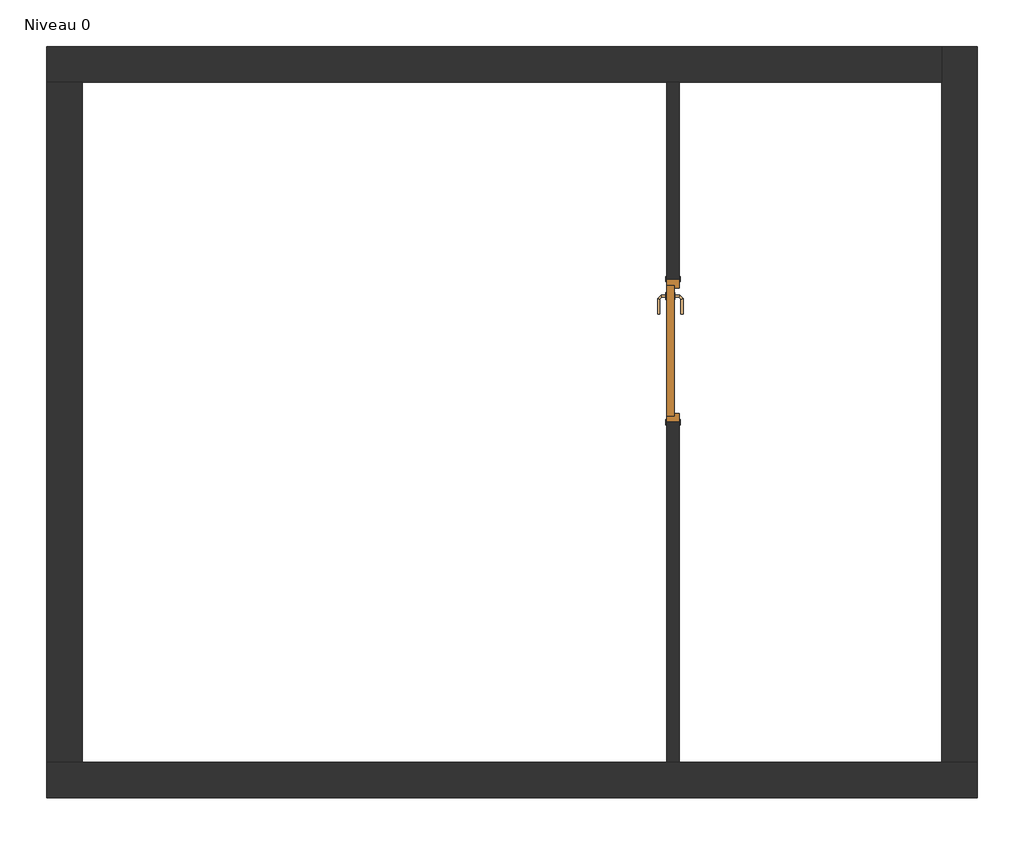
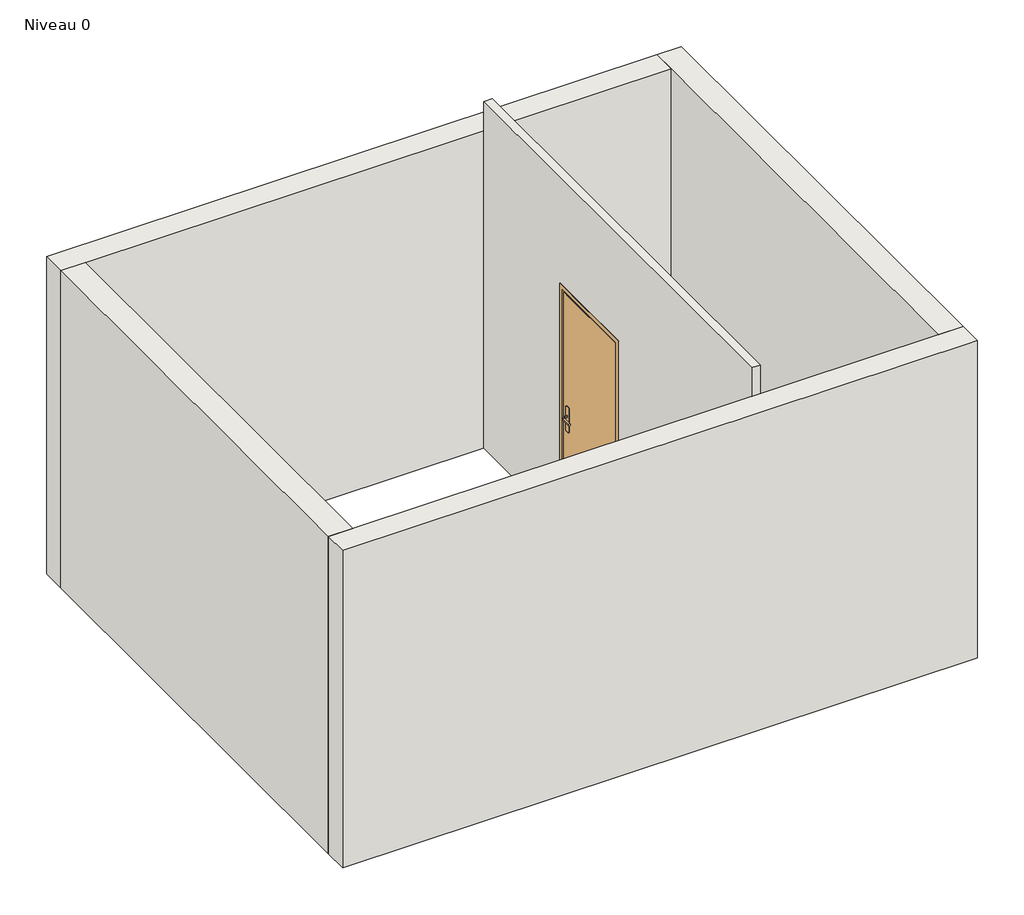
# One storey: 5 walls, 1 door.
"""IFC4 building model written with IfcOpenShell, lengths in millimetres."""

import ifcopenshell
import ifcopenshell.guid

model = None  # the IFC model being written
_history = None  # IfcOwnerHistory: only IFC2X3 demands one
_inside = {}  # id of a spatial element -> (the spatial element, [elements in it])
_under = {}  # id of a project, library or spatial element -> (it, [spatial elements below it])
_declared = {}  # id of a project -> (the project, [libraries it declares])
_typed = {}  # id of a type object -> (the type object, [elements of that type])
_made_of = {}  # id of a material, layer set ... -> (it, [elements and type objects made of it])


def new_model(schema):
    """Start an empty IFC model of exactly this schema.

    Asked for "IFC4X3", IfcOpenShell would pick the latest addendum, in which some entities
    have other attributes; the version numbers below select the first issue.
    IFC2X3 requires an IfcOwnerHistory on every rooted entity: one is made here for all.
    """
    global model, _history
    if schema == "IFC4X3":
        model = ifcopenshell.file(schema_version=(4, 3, 0, 0))
    else:
        model = ifcopenshell.file(schema=schema)
    _inside.clear()
    _under.clear()
    _declared.clear()
    _typed.clear()
    _made_of.clear()
    _history = None
    if model.schema == "IFC2X3":
        org = make("IfcOrganization", Name="unknown")
        user = make(
            "IfcPersonAndOrganization",
            ThePerson=make("IfcPerson", FamilyName="unknown"),
            TheOrganization=org,
        )
        app = make(
            "IfcApplication",
            ApplicationDeveloper=org,
            Version="unknown",
            ApplicationFullName="unknown",
            ApplicationIdentifier="unknown",
        )
        _history = make(
            "IfcOwnerHistory",
            OwningUser=user,
            OwningApplication=app,
            ChangeAction="ADDED",
            CreationDate=0,
        )
    return model


def make(cls, **values):
    """One entity of the class cls with the attributes given. An attribute that is None is left unset."""
    return model.create_entity(
        cls, **{name: value for name, value in values.items() if value is not None}
    )


def rooted(cls, **values):
    """An entity with a GlobalId (a new one), such as an element, a storey or a relation."""
    return make(cls, GlobalId=ifcopenshell.guid.new(), OwnerHistory=_history, **values)


def si_unit(unit_type, name, prefix=None):
    """IfcSIUnit, for example si_unit("LENGTHUNIT", "METRE", prefix="MILLI")."""
    return make("IfcSIUnit", UnitType=unit_type, Prefix=prefix, Name=name)


def assignment(units):
    """IfcUnitAssignment: the units of a project."""
    return None if units is None else make("IfcUnitAssignment", Units=units)


def point(xyz):
    """IfcCartesianPoint."""
    return None if xyz is None else make("IfcCartesianPoint", Coordinates=xyz)


def direction(xyz):
    """IfcDirection."""
    return None if xyz is None else make("IfcDirection", DirectionRatios=xyz)


def frame(location, z_axis=None, x_axis=None):
    """IfcAxis2Placement3D, a coordinate frame: its origin and axes. An axis left out is left unset."""
    return make(
        "IfcAxis2Placement3D",
        Location=point(location),
        Axis=direction(z_axis),
        RefDirection=direction(x_axis),
    )


def frame_2d(location, x_axis=None):
    """IfcAxis2Placement2D, a coordinate frame in the plane: its origin and x axis."""
    return make(
        "IfcAxis2Placement2D", Location=point(location), RefDirection=direction(x_axis)
    )


def origin():
    """The frame at (0, 0, 0) with its axes left unset."""
    return frame((0.0, 0.0, 0.0))


def origin_with_axes():
    """The frame at (0, 0, 0) with the z axis (0, 0, 1) and the x axis (1, 0, 0) written out."""
    return frame((0.0, 0.0, 0.0), z_axis=(0.0, 0.0, 1.0), x_axis=(1.0, 0.0, 0.0))


def place(relative_to, where):
    """IfcLocalPlacement: puts the frame where relative to a parent placement (None: the world)."""
    return make(
        "IfcLocalPlacement", PlacementRelTo=relative_to, RelativePlacement=where
    )


def context(
    kind, dimensions, precision=None, world=None, true_north=None, identifier=None
):
    """IfcGeometricRepresentationContext, for example the 3D "Model" context."""
    return make(
        "IfcGeometricRepresentationContext",
        ContextIdentifier=identifier,
        ContextType=kind,
        CoordinateSpaceDimension=dimensions,
        Precision=precision,
        WorldCoordinateSystem=world,
        TrueNorth=true_north,
    )


def project(units=None, contexts=None):
    """IfcProject with its units and contexts."""
    return rooted(
        "IfcProject",
        Name="project",
        RepresentationContexts=contexts,
        UnitsInContext=assignment(units),
    )


def spatial(cls, under=None, at=None, **own):
    """A site, building, storey or space (cls), placed at a placement, below another one or the project."""
    s = rooted(cls, ObjectPlacement=at, **own)
    if under is not None:
        _under.setdefault(under.id(), (under, []))[1].append(s)
    return s


def polyline(points):
    """IfcPolyline through the points."""
    return make("IfcPolyline", Points=[point(p) for p in points])


def circle_curve(where, radius):
    """IfcCircle in the frame where."""
    return make("IfcCircle", Position=where, Radius=radius)


def ellipse_curve(where, semi_axis1, semi_axis2):
    """IfcEllipse in the frame where."""
    return make(
        "IfcEllipse", Position=where, SemiAxis1=semi_axis1, SemiAxis2=semi_axis2
    )


def trimmed(basis, trim1, trim2, sense, master):
    """IfcTrimmedCurve: the piece of a basis curve between two trims."""
    return make(
        "IfcTrimmedCurve",
        BasisCurve=basis,
        Trim1=trim1,
        Trim2=trim2,
        SenseAgreement=sense,
        MasterRepresentation=master,
    )


def segment(curve, same_sense, transition):
    """IfcCompositeCurveSegment."""
    return make(
        "IfcCompositeCurveSegment",
        Transition=transition,
        SameSense=same_sense,
        ParentCurve=curve,
    )


def composite_curve(segments, self_intersect=None):
    """IfcCompositeCurve: segments joined end to end."""
    return make("IfcCompositeCurve", Segments=segments, SelfIntersect=self_intersect)


def outline(outer, holes=None, kind="AREA"):
    """IfcArbitraryClosedProfileDef: a profile drawn as a closed curve; with holes, ...WithVoids."""
    if holes is None:
        return make("IfcArbitraryClosedProfileDef", ProfileType=kind, OuterCurve=outer)
    return make(
        "IfcArbitraryProfileDefWithVoids",
        ProfileType=kind,
        OuterCurve=outer,
        InnerCurves=holes,
    )


def extrude(swept, where, along, depth):
    """IfcExtrudedAreaSolid: the profile swept, set in the frame where, extruded along a direction by depth."""
    return make(
        "IfcExtrudedAreaSolid",
        SweptArea=swept,
        Position=where,
        ExtrudedDirection=direction(along),
        Depth=depth,
    )


def faces_of(points, faces, orient=None, outer=None):
    """IfcFace entities. A face is a list of loops; a loop is a list of indices into points, from 0.

    orient and outer hold one flag for each loop. By default every Orientation is true, the
    first loop of a face is its IfcFaceOuterBound and the others are IfcFaceBound.
    """
    made = []
    for i, loops in enumerate(faces):
        bounds = []
        for j, loop in enumerate(loops):
            is_outer = j == 0 if outer is None else outer[i][j]
            bounds.append(
                make(
                    "IfcFaceOuterBound" if is_outer else "IfcFaceBound",
                    Bound=make("IfcPolyLoop", Polygon=[points[k] for k in loop]),
                    Orientation=True if orient is None else orient[i][j],
                )
            )
        made.append(make("IfcFace", Bounds=bounds))
    return made


def faceted_brep(points, faces, orient=None, outer=None, voids=None):
    """IfcFacetedBrep: a solid bounded by flat faces; with voids (closed shells), ...WithVoids."""
    shared = [point(p) for p in points]
    hull = make("IfcClosedShell", CfsFaces=faces_of(shared, faces, orient, outer))
    if voids is None:
        return make("IfcFacetedBrep", Outer=hull)
    return make(
        "IfcFacetedBrepWithVoids",
        Outer=hull,
        Voids=[
            make(cls, CfsFaces=faces_of(shared, fs, o, b)) for cls, fs, o, b in voids
        ],
    )


def shape(context_of_items, identifier, shape_type, items):
    """IfcShapeRepresentation: the items that make up one representation, for example the "Body"."""
    return make(
        "IfcShapeRepresentation",
        ContextOfItems=context_of_items,
        RepresentationIdentifier=identifier,
        RepresentationType=shape_type,
        Items=items,
    )


def source(mapping_origin, context_of_items, identifier, shape_type, items):
    """IfcRepresentationMap: a shape defined once, which mapped items show again and again."""
    return make(
        "IfcRepresentationMap",
        MappingOrigin=mapping_origin,
        MappedRepresentation=shape(context_of_items, identifier, shape_type, items),
    )


def transform(
    local_origin,
    x_axis=None,
    y_axis=None,
    z_axis=None,
    scale=None,
    scale2=None,
    scale3=None,
    uniform=True,
):
    """IfcCartesianTransformationOperator3D, or its non-uniform kind. x_axis, y_axis, z_axis: its Axis1, 2, 3."""
    if uniform:
        return make(
            "IfcCartesianTransformationOperator3D",
            Axis1=direction(x_axis),
            Axis2=direction(y_axis),
            LocalOrigin=point(local_origin),
            Scale=scale,
            Axis3=direction(z_axis),
        )
    return make(
        "IfcCartesianTransformationOperator3DnonUniform",
        Axis1=direction(x_axis),
        Axis2=direction(y_axis),
        LocalOrigin=point(local_origin),
        Scale=scale,
        Axis3=direction(z_axis),
        Scale2=scale2,
        Scale3=scale3,
    )


def mapped(mapping_source, mapping_target):
    """IfcMappedItem: shows the shape of a source again, moved by a transform."""
    return make(
        "IfcMappedItem", MappingSource=mapping_source, MappingTarget=mapping_target
    )


def made_of(thing, what):
    """Note that an element or type object is made of a material, layer set ...; save() writes the relation."""
    if what is not None:
        _made_of.setdefault(what.id(), (what, []))[1].append(thing)
    return thing


def element(
    cls,
    number,
    at=None,
    inside=None,
    cuts=None,
    type_object=None,
    material=None,
    context=None,
    identifier="Body",
    shape_type=None,
    held_by="IfcProductDefinitionShape",
    body=None,
    shapes=None,
    **own,
):
    """One element of the class cls, such as IfcWall. Its Tag is "e" and its number.

    at: its placement. inside: the storey or other place that contains it. cuts: it is an
    opening in that element (IfcRelVoidsElement). A single representation is given by context,
    identifier, shape_type and body (its items); several are given by shapes. held_by: the class
    of the entity that holds the representations. save() writes the other relations.
    """
    e = rooted(cls, Tag="e%d" % number, ObjectPlacement=at, **own)
    if body is not None:
        shapes = [shape(context, identifier, shape_type, body)]
    if shapes is not None:
        e.Representation = make(held_by, Representations=shapes)
    if inside is not None:
        _inside.setdefault(inside.id(), (inside, []))[1].append(e)
    if cuts is not None:
        rooted(
            "IfcRelVoidsElement", RelatingBuildingElement=cuts, RelatedOpeningElement=e
        )
    if type_object is not None:
        _typed.setdefault(type_object.id(), (type_object, []))[1].append(e)
    return made_of(e, material)


def aggregate(whole, parts):
    """IfcRelAggregates: a whole, such as a stair, and the parts it consists of."""
    return rooted("IfcRelAggregates", RelatingObject=whole, RelatedObjects=parts)


def save(model, path):
    """Write the relations noted so far, then the file.

    IfcRelAggregates (storeys below a building ...), IfcRelContainedInSpatialStructure (elements
    in a storey), IfcRelDefinesByType, IfcRelAssociatesMaterial and IfcRelDeclares: one each for
    every whole, place, type object, material and project.
    """
    for whole, parts in _under.values():
        aggregate(whole, parts)
    for where, things in _inside.values():
        rooted(
            "IfcRelContainedInSpatialStructure",
            RelatedElements=things,
            RelatingStructure=where,
        )
    for kind, things in _typed.values():
        rooted("IfcRelDefinesByType", RelatedObjects=things, RelatingType=kind)
    for what, things in _made_of.values():
        rooted("IfcRelAssociatesMaterial", RelatedObjects=things, RelatingMaterial=what)
    for by, libraries in _declared.values():
        rooted("IfcRelDeclares", RelatingContext=by, RelatedDefinitions=libraries)
    model.write(path)


def plane_surface(at):
    """IfcPlane: the flat surface through the origin of the frame at, square to its z axis."""
    return make("IfcPlane", Position=at)


def cylinder_surface(at, radius):
    """IfcCylindricalSurface: all points at the distance radius from the z axis of the frame at."""
    return make("IfcCylindricalSurface", Position=at, Radius=radius)


def advanced_brep(points, edges, surfaces, faces):
    """IfcAdvancedBrep: a solid bounded by faces that lie on surfaces and meet in shared edges.

    An edge is (start, end): straight between two places in points (the first is 0);
    or (start, end, curve); or (start, end, curve, False) where it runs against its curve.
    A face is (place in surfaces, loops), or (place, loops, False) where it looks against
    its surface's normal. A loop lists edges by number (the first is 1), with a minus sign
    where the edge is run from its end to its start. The first loop is the outer one.
    """
    corners = [point(p) for p in points]
    vertices = [make("IfcVertexPoint", VertexGeometry=c) for c in corners]
    made = []
    for start, end, *more in edges:
        made.append(
            make(
                "IfcEdgeCurve",
                EdgeStart=vertices[start],
                EdgeEnd=vertices[end],
                EdgeGeometry=more[0] if more else make("IfcPolyline", Points=[corners[start], corners[end]]),
                SameSense=more[1] if len(more) > 1 else True,
            )
        )
    hull = []
    for where, loops, *sense in faces:
        bounds = []
        for j, loop in enumerate(loops):
            ring = [make("IfcOrientedEdge", EdgeElement=made[abs(k) - 1], Orientation=k > 0) for k in loop]
            bounds.append(
                make(
                    "IfcFaceOuterBound" if j == 0 else "IfcFaceBound",
                    Bound=make("IfcEdgeLoop", EdgeList=ring),
                    Orientation=True,
                )
            )
        hull.append(make("IfcAdvancedFace", Bounds=bounds, FaceSurface=surfaces[where], SameSense=sense[0] if sense else True))
    return make("IfcAdvancedBrep", Outer=make("IfcClosedShell", CfsFaces=hull))


def int_simple_pp_0_73m_x_2_04m_0234ae46(model_context):
    return source(origin(), model_context, "Body", "SolidModel", [
        extrude(outline(composite_curve([segment(trimmed(circle_curve(frame_2d((904.6410162, -340.0)), 40.0), [point((870.0, -360.0))], [point((870.0, -320.0))], False, "CARTESIAN"), True, "CONTINUOUS"), segment(polyline([(870.0, -320.0), (1080.0, -320.0)]), True, "CONTINUOUS"), segment(trimmed(circle_curve(frame_2d((1045.3589838, -340.0)), 40.0), [point((1080.0, -320.0))], [point((1080.0, -360.0))], False, "CARTESIAN"), True, "CONTINUOUS"), segment(polyline([(1080.0, -360.0), (870.0, -360.0)]), True, "CONTINUOUS")], self_intersect=False)), frame((0.0, -40.0, 0.0), z_axis=(0.0, 1.0, 0.0), x_axis=(0.0, 0.0, 1.0)), (0.0, 0.0, 1.0), 5.0),
        extrude(outline(composite_curve([segment(trimmed(circle_curve(frame_2d((1045.3589838, -340.0)), 40.0), [point((1080.0, -320.0))], [point((1080.0, -360.0))], False, "CARTESIAN"), True, "CONTINUOUS"), segment(polyline([(1080.0, -360.0), (870.0, -360.0)]), True, "CONTINUOUS"), segment(trimmed(circle_curve(frame_2d((904.6410162, -340.0)), 40.0), [point((870.0, -360.0))], [point((870.0, -320.0))], False, "CARTESIAN"), True, "CONTINUOUS"), segment(polyline([(870.0, -320.0), (1080.0, -320.0)]), True, "CONTINUOUS")], self_intersect=False)), frame((0.0, 5.0, 0.0), z_axis=(0.0, 1.0, 0.0), x_axis=(0.0, 0.0, 1.0)), (0.0, 0.0, 1.0), 5.0),
        advanced_brep(
        [(-346.0, -40.0, 1007.0), (-334.0, -40.0, 1007.0), (-334.0, -40.0, 993.0), (-346.0, -40.0, 993.0), (-346.0, -67.6509507, 1007.0), (-334.0, -62.680388, 1007.0), (-334.0, -62.680388, 993.0), (-346.0, -67.6509507, 993.0), (-327.62279, -86.0281607, 1007.0), (-322.6522273, -74.0281607, 1007.0), (-322.6522273, -74.0281607, 993.0), (-327.62279, -86.0281607, 993.0), (-239.9813594, -86.0281607, 1007.0), (-239.9813594, -86.0281607, 993.0), (-239.9813594, -74.0281607, 993.0), (-239.9813594, -74.0281607, 1007.0)],
        [
            (0, 1, circle_curve(frame((-340.0, -40.0, 986.9542278), z_axis=(0.0, 1.0, 0.0), x_axis=(1.0, 0.0, 0.0)), 20.9244589)),
            (1, 2),
            (2, 3, circle_curve(frame((-340.0, -40.0, 1013.0457722), z_axis=(0.0, 1.0, 0.0), x_axis=(1.0, 0.0, 0.0)), 20.9244589)),
            (3, 0),
            (0, 4),
            (4, 5, ellipse_curve(frame((-340.0, -65.1656693, 986.9542278), z_axis=(-0.3826834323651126, 0.9238795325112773, 0.0), x_axis=(0.9238795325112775, 0.38268343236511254, 0.0)), 22.6484711, 20.9244589)),
            (5, 1),
            (5, 6),
            (6, 2),
            (6, 7, ellipse_curve(frame((-340.0, -65.1656693, 1013.0457722), z_axis=(-0.3826834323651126, 0.9238795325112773, 0.0), x_axis=(0.9238795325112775, 0.38268343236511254, 0.0)), 22.6484711, 20.9244589)),
            (7, 3),
            (7, 4),
            (4, 8),
            (8, 9, ellipse_curve(frame((-325.1375086, -80.0281607, 986.9542278), z_axis=(-0.9238795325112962, 0.38268343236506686, 0.0), x_axis=(0.3826834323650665, 0.9238795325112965, 0.0)), 22.6484711, 20.9244589)),
            (9, 5),
            (9, 10),
            (10, 6),
            (10, 11, ellipse_curve(frame((-325.1375086, -80.0281607, 1013.0457722), z_axis=(-0.9238795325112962, 0.38268343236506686, 0.0), x_axis=(0.3826834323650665, 0.9238795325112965, 0.0)), 22.6484711, 20.9244589)),
            (11, 7),
            (11, 8),
            (12, 13),
            (13, 14, circle_curve(frame((-239.9813594, -80.0281607, 1013.0457722), z_axis=(1.0, 0.0, 0.0), x_axis=(0.0, 1.0, 0.0)), 20.9244589)),
            (14, 15),
            (15, 12, circle_curve(frame((-239.9813594, -80.0281607, 986.9542278), z_axis=(1.0, 0.0, 0.0), x_axis=(0.0, 1.0, 0.0)), 20.9244589)),
            (8, 12),
            (15, 9),
            (14, 10),
            (13, 11),
        ],
        [
            plane_surface(frame((-349.2195445, -40.0, 1000.0), z_axis=(0.0, 1.0, 0.0), x_axis=(0.0, 0.0, -1.0))),
            cylinder_surface(frame((-340.0, -40.0, 986.9542278), z_axis=(0.0, 1.0, 0.0), x_axis=(1.0, 0.0, 0.0)), 20.9244589),
            plane_surface(frame((-334.0, -40.0, 1007.0), z_axis=(1.0, 0.0, 0.0), x_axis=(0.0, -1.0, 0.0))),
            cylinder_surface(frame((-340.0, -40.0, 1013.0457722), z_axis=(0.0, 1.0, 0.0), x_axis=(1.0, 0.0, 0.0)), 20.9244589),
            plane_surface(frame((-346.0, -40.0, 993.0), z_axis=(-1.0, 0.0, 0.0), x_axis=(0.0, -1.0, 0.0))),
            cylinder_surface(frame((-340.0, -65.1656693, 986.9542278), z_axis=(-0.7071067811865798, 0.7071067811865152, 0.0), x_axis=(0.7071067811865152, 0.7071067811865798, 0.0)), 20.9244589),
            plane_surface(frame((-334.0, -62.680388, 1007.0), z_axis=(0.7071067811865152, 0.7071067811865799, 0.0), x_axis=(0.7071067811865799, -0.7071067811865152, 0.0))),
            cylinder_surface(frame((-340.0, -65.1656693, 1013.0457722), z_axis=(-0.7071067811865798, 0.7071067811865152, 0.0), x_axis=(0.7071067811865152, 0.7071067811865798, 0.0)), 20.9244589),
            plane_surface(frame((-346.0, -67.6509507, 993.0), z_axis=(-0.7071067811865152, -0.7071067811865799, 0.0), x_axis=(0.7071067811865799, -0.7071067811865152, 0.0))),
            plane_surface(frame((-239.9813594, -80.0281607, 990.7804555), z_axis=(1.0, 0.0, 0.0), x_axis=(0.0, 1.0, 0.0))),
            cylinder_surface(frame((-325.1375086, -80.0281607, 986.9542278), z_axis=(-1.0, 0.0, 0.0), x_axis=(0.0, 1.0, 0.0)), 20.9244589),
            plane_surface(frame((-322.6522273, -74.0281607, 1007.0), z_axis=(0.0, 1.0, 0.0), x_axis=(1.0, 0.0, 0.0))),
            cylinder_surface(frame((-325.1375086, -80.0281607, 1013.0457722), z_axis=(-1.0, 0.0, 0.0), x_axis=(0.0, 1.0, 0.0)), 20.9244589),
            plane_surface(frame((-327.62279, -86.0281607, 993.0), z_axis=(0.0, -1.0, 0.0), x_axis=(1.0, 0.0, 0.0))),
        ],
        [
            (0, [[1, 2, 3, 4]]),
            (1, [[-1, 5, 6, 7]]),
            (2, [[-2, -7, 8, 9]]),
            (3, [[-3, -9, 10, 11]]),
            (4, [[-4, -11, 12, -5]]),
            (5, [[-6, 13, 14, 15]]),
            (6, [[-8, -15, 16, 17]]),
            (7, [[-10, -17, 18, 19]]),
            (8, [[-12, -19, 20, -13]]),
            (9, [[21, 22, 23, 24]]),
            (10, [[-14, 25, -24, 26]]),
            (11, [[-16, -26, -23, 27]]),
            (12, [[-18, -27, -22, 28]]),
            (13, [[-20, -28, -21, -25]]),
        ],
    ),
        advanced_brep(
        [(-334.0, 10.0, 993.0), (-334.0, 10.0, 1007.0), (-346.0, 10.0, 1007.0), (-346.0, 10.0, 993.0), (-334.0, 32.4852045, 993.0), (-334.0, 32.4852045, 1007.0), (-346.0, 37.4557673, 1007.0), (-346.0, 37.4557673, 993.0), (-322.5147186, 43.9704859, 993.0), (-322.5147186, 43.9704859, 1007.0), (-327.4852814, 55.9704859, 1007.0), (-327.4852814, 55.9704859, 993.0), (-239.9542163, 43.9704859, 993.0), (-239.9542163, 55.9704859, 993.0), (-239.9542163, 55.9704859, 1007.0), (-239.9542163, 43.9704859, 1007.0)],
        [
            (0, 1),
            (1, 2, circle_curve(frame((-340.0, 10.0, 986.9542278), z_axis=(0.0, -1.0, 0.0), x_axis=(-1.0, 0.0, 0.0)), 20.9244589)),
            (2, 3),
            (3, 0, circle_curve(frame((-340.0, 10.0, 1013.0457722), z_axis=(0.0, -1.0, 0.0), x_axis=(-1.0, 0.0, 0.0)), 20.9244589)),
            (0, 4),
            (4, 5),
            (5, 1),
            (5, 6, ellipse_curve(frame((-340.0, 34.9704859, 986.9542278), z_axis=(-0.3826834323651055, -0.9238795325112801, 0.0), x_axis=(0.9238795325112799, -0.3826834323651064, 0.0)), 22.6484711, 20.9244589)),
            (6, 2),
            (6, 7),
            (7, 3),
            (7, 4, ellipse_curve(frame((-340.0, 34.9704859, 1013.0457722), z_axis=(-0.3826834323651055, -0.9238795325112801, 0.0), x_axis=(0.9238795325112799, -0.3826834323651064, 0.0)), 22.6484711, 20.9244589)),
            (4, 8),
            (8, 9),
            (9, 5),
            (9, 10, ellipse_curve(frame((-325.0, 49.9704859, 986.9542278), z_axis=(-0.9238795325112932, -0.382683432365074, 0.0), x_axis=(0.3826834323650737, -0.9238795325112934, 0.0)), 22.6484711, 20.9244589)),
            (10, 6),
            (10, 11),
            (11, 7),
            (11, 8, ellipse_curve(frame((-325.0, 49.9704859, 1013.0457722), z_axis=(-0.9238795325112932, -0.382683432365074, 0.0), x_axis=(0.3826834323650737, -0.9238795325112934, 0.0)), 22.6484711, 20.9244589)),
            (12, 13, circle_curve(frame((-239.9542163, 49.9704859, 1013.0457722), z_axis=(1.0, 0.0, 0.0), x_axis=(0.0, 1.0, 0.0)), 20.9244589)),
            (13, 14),
            (14, 15, circle_curve(frame((-239.9542163, 49.9704859, 986.9542278), z_axis=(1.0, 0.0, 0.0), x_axis=(0.0, 1.0, 0.0)), 20.9244589)),
            (15, 12),
            (8, 12),
            (15, 9),
            (14, 10),
            (13, 11),
        ],
        [
            plane_surface(frame((-349.2195445, 10.0, 1000.0), z_axis=(0.0, -1.0, 0.0), x_axis=(0.0, 0.0, 1.0))),
            plane_surface(frame((-334.0, 10.0, 993.0), z_axis=(1.0, 0.0, 0.0), x_axis=(0.0, 1.0, 0.0))),
            cylinder_surface(frame((-340.0, 10.0, 986.9542278), z_axis=(0.0, -1.0, 0.0), x_axis=(-1.0, 0.0, 0.0)), 20.9244589),
            plane_surface(frame((-346.0, 10.0, 1007.0), z_axis=(-1.0, 0.0, 0.0), x_axis=(0.0, 1.0, 0.0))),
            cylinder_surface(frame((-340.0, 10.0, 1013.0457722), z_axis=(0.0, -1.0, 0.0), x_axis=(-1.0, 0.0, 0.0)), 20.9244589),
            plane_surface(frame((-334.0, 32.4852045, 993.0), z_axis=(0.7071067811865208, -0.7071067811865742, 0.0), x_axis=(0.7071067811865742, 0.7071067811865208, 0.0))),
            cylinder_surface(frame((-340.0, 34.9704859, 986.9542278), z_axis=(-0.7071067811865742, -0.7071067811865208, 0.0), x_axis=(-0.7071067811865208, 0.7071067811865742, 0.0)), 20.9244589),
            plane_surface(frame((-346.0, 37.4557673, 1007.0), z_axis=(-0.7071067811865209, 0.7071067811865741, 0.0), x_axis=(0.7071067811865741, 0.7071067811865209, 0.0))),
            cylinder_surface(frame((-340.0, 34.9704859, 1013.0457722), z_axis=(-0.7071067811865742, -0.7071067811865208, 0.0), x_axis=(-0.7071067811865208, 0.7071067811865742, 0.0)), 20.9244589),
            plane_surface(frame((-239.9542163, 49.9704859, 990.7804555), z_axis=(1.0, 0.0, 0.0), x_axis=(0.0, 1.0, 0.0))),
            plane_surface(frame((-322.5147186, 43.9704859, 993.0), z_axis=(0.0, -1.0, 0.0), x_axis=(1.0, 0.0, 0.0))),
            cylinder_surface(frame((-325.0, 49.9704859, 986.9542278), z_axis=(-1.0, 0.0, 0.0), x_axis=(0.0, 1.0, 0.0)), 20.9244589),
            plane_surface(frame((-327.4852814, 55.9704859, 1007.0), z_axis=(0.0, 1.0, 0.0), x_axis=(1.0, 0.0, 0.0))),
            cylinder_surface(frame((-325.0, 49.9704859, 1013.0457722), z_axis=(-1.0, 0.0, 0.0), x_axis=(0.0, 1.0, 0.0)), 20.9244589),
        ],
        [
            (0, [[1, 2, 3, 4]]),
            (1, [[-1, 5, 6, 7]]),
            (2, [[-2, -7, 8, 9]]),
            (3, [[-3, -9, 10, 11]]),
            (4, [[-4, -11, 12, -5]]),
            (5, [[-6, 13, 14, 15]]),
            (6, [[-8, -15, 16, 17]]),
            (7, [[-10, -17, 18, 19]]),
            (8, [[-12, -19, 20, -13]]),
            (9, [[21, 22, 23, 24]]),
            (10, [[-14, 25, -24, 26]]),
            (11, [[-16, -26, -23, 27]]),
            (12, [[-18, -27, -22, 28]]),
            (13, [[-20, -28, -21, -25]]),
        ],
    ),
        extrude(outline(polyline([(-400.0, 5.0), (330.0, 5.0), (330.0, -35.0), (-400.0, -35.0), (-400.0, 5.0)])), origin_with_axes(), (0.0, 0.0, 1.0), 2040.0),
        faceted_brep([(-435.0, -35.0, 0.0), (-435.0, 35.0, 0.0), (-385.0, 35.0, 0.0), (-385.0, 5.0, 0.0), (-400.0, 5.0, 0.0), (-400.0, -35.0, 0.0), (-435.0, -35.0, 2075.0), (-435.0, 35.0, 2075.0), (365.0, 35.0, 2075.0), (365.0, 35.0, 0.0), (315.0, 35.0, 0.0), (315.0, 35.0, 2025.0), (-385.0, 35.0, 2025.0), (-385.0, 5.0, 2025.0), (315.0, 5.0, 2025.0), (315.0, 5.0, 0.0), (330.0, 5.0, 0.0), (330.0, 5.0, 2040.0), (-400.0, 5.0, 2040.0), (-400.0, -35.0, 2040.0), (330.0, -35.0, 2040.0), (330.0, -35.0, 0.0), (365.0, -35.0, 0.0), (365.0, -35.0, 2075.0)], [[[0, 1, 2, 3, 4, 5]], [[1, 0, 6, 7]], [[2, 1, 7, 8, 9, 10, 11, 12]], [[3, 2, 12, 13]], [[4, 3, 13, 14, 15, 16, 17, 18]], [[5, 4, 18, 19]], [[0, 5, 19, 20, 21, 22, 23, 6]], [[8, 23, 22, 9]], [[22, 21, 16, 15, 10, 9]], [[14, 11, 10, 15]], [[20, 17, 16, 21]], [[7, 6, 23, 8]], [[13, 12, 11, 14]], [[19, 18, 17, 20]]]),
        extrude(outline(polyline([(0.0, -450.0), (0.0, -420.0), (2060.0, -420.0), (2060.0, 350.0), (0.0, 350.0), (0.0, 380.0), (2090.0, 380.0), (2090.0, -450.0), (0.0, -450.0)])), frame((0.0, -40.0, 0.0), z_axis=(0.0, 1.0, 0.0), x_axis=(0.0, 0.0, 1.0)), (0.0, 0.0, 1.0), 5.0),
        extrude(outline(polyline([(0.0, -450.0), (0.0, -420.0), (2060.0, -420.0), (2060.0, 350.0), (0.0, 350.0), (0.0, 380.0), (2090.0, 380.0), (2090.0, -450.0), (0.0, -450.0)])), frame((0.0, 35.0, 0.0), z_axis=(0.0, 1.0, 0.0), x_axis=(0.0, 0.0, 1.0)), (0.0, 0.0, 1.0), 5.0),
    ])


model = new_model("IFC4")

# Units and contexts
model_context = context("Model", 3, world=origin())
ifc_project = project(units=[si_unit("LENGTHUNIT", "METRE", prefix="MILLI")], contexts=[model_context])

# Site, building, storey
site = spatial("IfcSite", under=ifc_project)
building = spatial("IfcBuilding", under=site)
storey = spatial("IfcBuildingStorey", under=building, Name="Niveau 0", Elevation=0.0)

# Door
placement = place(None, origin())
int_simple_pp_0_73m_x_2_04m_shape = int_simple_pp_0_73m_x_2_04m_0234ae46(model_context)
element("IfcDoor", 1, ObjectType="Int. Simple : PP (0.73m x 2.04m)", at=placement, inside=storey, context=model_context, shape_type="MappedRepresentation", body=[
    mapped(int_simple_pp_0_73m_x_2_04m_shape, transform((-4340.7066918, 1195.4785, 0.0), x_axis=(0.0, -1.0, 0.0), y_axis=(1.0, 0.0, 0.0), z_axis=(0.0, 0.0, 1.0))),
])

# Walls
element("IfcWall", 2, ObjectType="Générique - Ext. 200 mm", at=placement, inside=storey, context=model_context, shape_type="Brep", body=[
    faceted_brep([(-7840.7066918, -1269.5215, 0.0), (-2640.7066918, -1269.5215, 0.0), (-2640.7066918, -1269.5215, 2750.0), (-7840.7066918, -1269.5215, 2750.0), (-7840.7066918, -1069.5215, 0.0), (-7840.7066918, -1069.5215, 2750.0), (-7640.7066918, -1069.5215, 2750.0), (-2840.7066918, -1069.5215, 2750.0), (-2640.7066918, -1069.5215, 2750.0), (-2640.7066918, -1069.5215, 0.0), (-2840.7066918, -1069.5215, 0.0), (-4305.7066918, -1069.5215, 0.0), (-4375.7066918, -1069.5215, 0.0), (-7640.7066918, -1069.5215, 0.0)], [[[0, 1, 2, 3]], [[4, 5, 6, 7, 8, 9, 10, 11, 12, 13]], [[1, 0, 4, 13, 12, 11, 10, 9]], [[3, 2, 8, 7, 6, 5]], [[2, 1, 9, 8]], [[0, 3, 5, 4]]]),
])
element("IfcWall", 3, ObjectType="Générique - Ext. 200 mm", at=placement, inside=storey, context=model_context, shape_type="Brep", body=[
    faceted_brep([(-2640.7066918, -1069.5215, 0.0), (-2640.7066918, 2930.4785, 0.0), (-2640.7066918, 2930.4785, 2750.0), (-2640.7066918, -1069.5215, 2750.0), (-2840.7066918, -1069.5215, 0.0), (-2840.7066918, -1069.5215, 2750.0), (-2840.7066918, 2730.4785, 2750.0), (-2840.7066918, 2930.4785, 2750.0), (-2840.7066918, 2930.4785, 0.0), (-2840.7066918, 2730.4785, 0.0)], [[[0, 1, 2, 3]], [[4, 5, 6, 7, 8, 9]], [[1, 0, 4, 9, 8]], [[3, 2, 7, 6, 5]], [[0, 3, 5, 4]], [[2, 1, 8, 7]]]),
])
element("IfcWall", 4, ObjectType="Générique - Ext. 200 mm", at=placement, inside=storey, context=model_context, shape_type="Brep", body=[
    faceted_brep([(-2840.7066918, 2930.4785, 0.0), (-7840.7066918, 2930.4785, 0.0), (-7840.7066918, 2930.4785, 2750.0), (-2840.7066918, 2930.4785, 2750.0), (-2840.7066918, 2730.4785, 0.0), (-2840.7066918, 2730.4785, 2750.0), (-7640.7066918, 2730.4785, 2750.0), (-7840.7066918, 2730.4785, 2750.0), (-7840.7066918, 2730.4785, 0.0), (-7640.7066918, 2730.4785, 0.0), (-4375.7066918, 2730.4785, 0.0), (-4305.7066918, 2730.4785, 0.0)], [[[0, 1, 2, 3]], [[4, 5, 6, 7, 8, 9, 10, 11]], [[1, 0, 4, 11, 10, 9, 8]], [[3, 2, 7, 6, 5]], [[0, 3, 5, 4]], [[2, 1, 8, 7]]]),
])
element("IfcWall", 5, ObjectType="Générique - Ext. 200 mm", at=placement, inside=storey, context=model_context, shape_type="SweptSolid", body=[
    extrude(outline(polyline([(-7840.7066918, -1069.5215), (-7840.7066918, 2730.4785), (-7640.7066918, 2730.4785), (-7640.7066918, -1069.5215), (-7840.7066918, -1069.5215)])), origin_with_axes(), (0.0, 0.0, 1.0), 2750.0),
])
element("IfcWall", 6, ObjectType="Int. Plâtre 70 mm", at=placement, inside=storey, context=model_context, shape_type="SweptSolid", body=[
    extrude(outline(polyline([(-1069.5215, 3000.0), (2730.4785, 3000.0), (2730.4785, 0.0), (1630.4785, 0.0), (1630.4785, 2075.0), (830.4785, 2075.0), (830.4785, 0.0), (-1069.5215, 0.0), (-1069.5215, 3000.0)])), frame((-4375.7066918, 0.0, 0.0), z_axis=(1.0, 0.0, 0.0), x_axis=(0.0, 1.0, 0.0)), (0.0, 0.0, 1.0), 70.0),
])

save(model, "model.ifc")
